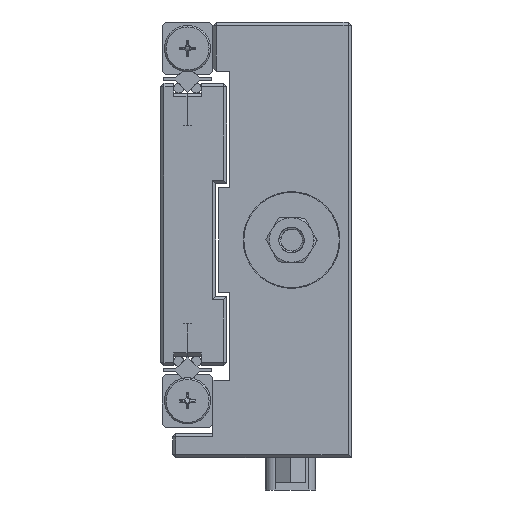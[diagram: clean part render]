
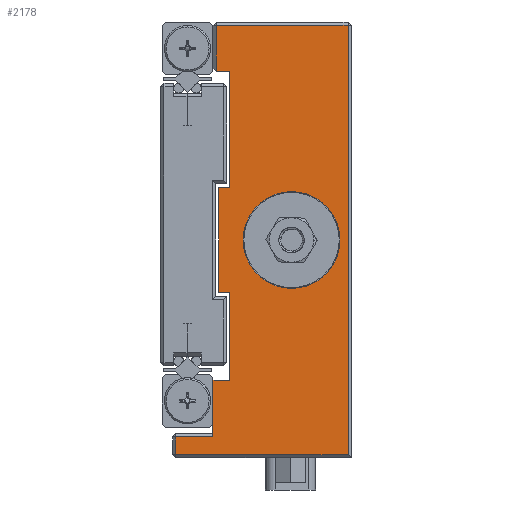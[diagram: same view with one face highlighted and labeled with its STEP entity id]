
A CAD part, left-side view. The second image highlights one B-rep face of the part: STEP entity #2178.
In plain terms, the highlighted planar face has unit normal (-1, 0, 0).
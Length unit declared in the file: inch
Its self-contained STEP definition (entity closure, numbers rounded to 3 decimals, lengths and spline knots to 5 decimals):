
#53 = CARTESIAN_POINT ( 'NONE',  ( -6., 0.4285, 1.177 ) ) ;
#96 = CARTESIAN_POINT ( 'NONE',  ( -6., 0.4285, -1.503 ) ) ;
#139 = DIRECTION ( 'NONE',  ( 0., 0., 1. ) ) ;
#365 = LINE ( 'NONE', #8624, #20761 ) ;
#408 = EDGE_CURVE ( 'NONE', #2262, #2366, #4712, .T. ) ;
#668 = CIRCLE ( 'NONE', #2342, 0.3 ) ;
#677 = VERTEX_POINT ( 'NONE', #28943 ) ;
#1203 = CARTESIAN_POINT ( 'NONE',  ( -6., 0.3935, -0.153 ) ) ;
#1329 = CARTESIAN_POINT ( 'NONE',  ( -6., 0.4085, 0.892 ) ) ;
#1719 = FACE_OUTER_BOUND ( 'NONE', #19675, .T. ) ;
#2178 = ADVANCED_FACE ( 'NONE', ( #18410, #1719 ), #4870, .F. ) ;
#2262 = VERTEX_POINT ( 'NONE', #5379 ) ;
#2342 = AXIS2_PLACEMENT_3D ( 'NONE', #8215, #29873, #139 ) ;
#2366 = VERTEX_POINT ( 'NONE', #21384 ) ;
#2519 = VECTOR ( 'NONE', #16852, 39.37008 ) ;
#2694 = VECTOR ( 'NONE', #33491, 39.37008 ) ;
#2854 = DIRECTION ( 'NONE',  ( 0., 1., 0. ) ) ;
#3197 = VERTEX_POINT ( 'NONE', #28310 ) ;
#3201 = VECTOR ( 'NONE', #32959, 39.37008 ) ;
#3254 = DIRECTION ( 'NONE',  ( 0., 0., 1. ) ) ;
#3424 = VECTOR ( 'NONE', #11922, 39.37008 ) ;
#4059 = ORIENTED_EDGE ( 'NONE', *, *, #29629, .F. ) ;
#4463 = ORIENTED_EDGE ( 'NONE', *, *, #20395, .F. ) ;
#4577 = VERTEX_POINT ( 'NONE', #6880 ) ;
#4712 = LINE ( 'NONE', #31457, #28697 ) ;
#4859 = CARTESIAN_POINT ( 'NONE',  ( -6., 0.4085, 1.177 ) ) ;
#4870 = PLANE ( 'NONE',  #20353 ) ;
#5379 = CARTESIAN_POINT ( 'NONE',  ( -6., -0.4085, -1.483 ) ) ;
#5420 = EDGE_CURVE ( 'NONE', #9772, #20510, #31042, .T. ) ;
#5650 = ORIENTED_EDGE ( 'NONE', *, *, #5420, .T. ) ;
#6091 = VERTEX_POINT ( 'NONE', #23925 ) ;
#6434 = VECTOR ( 'NONE', #23794, 39.37008 ) ;
#6694 = CARTESIAN_POINT ( 'NONE',  ( -6., 0.4285, -1.373 ) ) ;
#6812 = CARTESIAN_POINT ( 'NONE',  ( -6., -0.0585, 0.147 ) ) ;
#6880 = CARTESIAN_POINT ( 'NONE',  ( -6., 0.6585, -1.373 ) ) ;
#6908 = LINE ( 'NONE', #17114, #3201 ) ;
#7115 = CARTESIAN_POINT ( 'NONE',  ( -6., 0.3235, 0.892 ) ) ;
#8215 = CARTESIAN_POINT ( 'NONE',  ( -6., -0.0585, -0.153 ) ) ;
#8389 = CARTESIAN_POINT ( 'NONE',  ( -6., 0.3235, -0.153 ) ) ;
#8624 = CARTESIAN_POINT ( 'NONE',  ( -6., -0.4285, -1.483 ) ) ;
#9726 = CARTESIAN_POINT ( 'NONE',  ( -6., 0.4085, 0.892 ) ) ;
#9772 = VERTEX_POINT ( 'NONE', #4859 ) ;
#10132 = DIRECTION ( 'NONE',  ( 1., 0., 0. ) ) ;
#10170 = VECTOR ( 'NONE', #21744, 39.37008 ) ;
#10431 = LINE ( 'NONE', #53, #26744 ) ;
#10728 = ORIENTED_EDGE ( 'NONE', *, *, #30431, .T. ) ;
#11409 = VECTOR ( 'NONE', #30455, 39.37008 ) ;
#11534 = CARTESIAN_POINT ( 'NONE',  ( -6., 0.3235, 0.172 ) ) ;
#11722 = EDGE_CURVE ( 'NONE', #4577, #12154, #6908, .T. ) ;
#11922 = DIRECTION ( 'NONE',  ( 0., 0., 1. ) ) ;
#12113 = ORIENTED_EDGE ( 'NONE', *, *, #19628, .F. ) ;
#12154 = VERTEX_POINT ( 'NONE', #16893 ) ;
#12780 = CARTESIAN_POINT ( 'NONE',  ( -6., 0.4285, -1.503 ) ) ;
#13648 = LINE ( 'NONE', #24400, #10170 ) ;
#13795 = ORIENTED_EDGE ( 'NONE', *, *, #18905, .F. ) ;
#13826 = ORIENTED_EDGE ( 'NONE', *, *, #24035, .F. ) ;
#14654 = LINE ( 'NONE', #25400, #2694 ) ;
#14971 = CARTESIAN_POINT ( 'NONE',  ( -6., -0.0585, -0.453 ) ) ;
#15629 = DIRECTION ( 'NONE',  ( -1., 0., 0. ) ) ;
#16852 = DIRECTION ( 'NONE',  ( 0., 0., 1. ) ) ;
#16893 = CARTESIAN_POINT ( 'NONE',  ( -6., 0.6585, -1.483 ) ) ;
#17114 = CARTESIAN_POINT ( 'NONE',  ( -6., 0.6585, -1.503 ) ) ;
#17879 = ORIENTED_EDGE ( 'NONE', *, *, #19283, .T. ) ;
#17905 = DIRECTION ( 'NONE',  ( 0., 0., 1. ) ) ;
#18327 = EDGE_CURVE ( 'NONE', #6091, #21646, #23051, .T. ) ;
#18410 = FACE_BOUND ( 'NONE', #25318, .T. ) ;
#18846 = ORIENTED_EDGE ( 'NONE', *, *, #22416, .T. ) ;
#18905 = EDGE_CURVE ( 'NONE', #30646, #27572, #34247, .T. ) ;
#19283 = EDGE_CURVE ( 'NONE', #2366, #9772, #10431, .T. ) ;
#19345 = ORIENTED_EDGE ( 'NONE', *, *, #30773, .F. ) ;
#19453 = ORIENTED_EDGE ( 'NONE', *, *, #30092, .F. ) ;
#19628 = EDGE_CURVE ( 'NONE', #6091, #22327, #32876, .T. ) ;
#19675 = EDGE_LOOP ( 'NONE', ( #17879, #5650, #13826, #13795, #29084, #23911, #19453, #12113, #23038, #19345, #10728, #21304, #18846, #22773 ) ) ;
#19841 = LINE ( 'NONE', #1203, #3424 ) ;
#20226 = DIRECTION ( 'NONE',  ( 0., 1., 0. ) ) ;
#20353 = AXIS2_PLACEMENT_3D ( 'NONE', #12780, #10132, #29140 ) ;
#20395 = EDGE_CURVE ( 'NONE', #32724, #27126, #34207, .T. ) ;
#20510 = VERTEX_POINT ( 'NONE', #1329 ) ;
#20761 = VECTOR ( 'NONE', #27290, 39.37008 ) ;
#20870 = CARTESIAN_POINT ( 'NONE',  ( -6., 0.3235, -0.153 ) ) ;
#21304 = ORIENTED_EDGE ( 'NONE', *, *, #11722, .T. ) ;
#21384 = CARTESIAN_POINT ( 'NONE',  ( -6., -0.4085, 1.177 ) ) ;
#21551 = DIRECTION ( 'NONE',  ( 0., 0., 1. ) ) ;
#21646 = VERTEX_POINT ( 'NONE', #29877 ) ;
#21744 = DIRECTION ( 'NONE',  ( 0., 1., 0. ) ) ;
#21903 = CARTESIAN_POINT ( 'NONE',  ( -6., -0.0585, -0.153 ) ) ;
#22327 = VERTEX_POINT ( 'NONE', #28561 ) ;
#22416 = EDGE_CURVE ( 'NONE', #12154, #2262, #365, .T. ) ;
#22773 = ORIENTED_EDGE ( 'NONE', *, *, #408, .T. ) ;
#22895 = LINE ( 'NONE', #6694, #11409 ) ;
#23038 = ORIENTED_EDGE ( 'NONE', *, *, #18327, .T. ) ;
#23051 = LINE ( 'NONE', #33613, #24453 ) ;
#23690 = CARTESIAN_POINT ( 'NONE',  ( -6., 0.3235, 0.172 ) ) ;
#23760 = EDGE_CURVE ( 'NONE', #34301, #677, #19841, .T. ) ;
#23794 = DIRECTION ( 'NONE',  ( 0., 0., -1. ) ) ;
#23911 = ORIENTED_EDGE ( 'NONE', *, *, #23760, .F. ) ;
#23925 = CARTESIAN_POINT ( 'NONE',  ( -6., 0.3235, -1.023 ) ) ;
#24035 = EDGE_CURVE ( 'NONE', #27572, #20510, #13648, .T. ) ;
#24155 = EDGE_CURVE ( 'NONE', #30646, #677, #27911, .T. ) ;
#24209 = LINE ( 'NONE', #96, #34454 ) ;
#24400 = CARTESIAN_POINT ( 'NONE',  ( -6., -11.67653, 0.892 ) ) ;
#24453 = VECTOR ( 'NONE', #20226, 39.37008 ) ;
#25229 = AXIS2_PLACEMENT_3D ( 'NONE', #21903, #15629, #3254 ) ;
#25271 = DIRECTION ( 'NONE',  ( 0., 1., 0. ) ) ;
#25318 = EDGE_LOOP ( 'NONE', ( #4059, #4463 ) ) ;
#25400 = CARTESIAN_POINT ( 'NONE',  ( -6., 0.3235, -0.478 ) ) ;
#26744 = VECTOR ( 'NONE', #2854, 39.37008 ) ;
#27126 = VERTEX_POINT ( 'NONE', #6812 ) ;
#27290 = DIRECTION ( 'NONE',  ( 0., -1., 0. ) ) ;
#27572 = VERTEX_POINT ( 'NONE', #7115 ) ;
#27911 = LINE ( 'NONE', #11534, #31562 ) ;
#28310 = CARTESIAN_POINT ( 'NONE',  ( -6., 0.4285, -1.373 ) ) ;
#28561 = CARTESIAN_POINT ( 'NONE',  ( -6., 0.3235, -0.478 ) ) ;
#28697 = VECTOR ( 'NONE', #33761, 39.37008 ) ;
#28943 = CARTESIAN_POINT ( 'NONE',  ( -6., 0.3935, 0.172 ) ) ;
#29084 = ORIENTED_EDGE ( 'NONE', *, *, #24155, .T. ) ;
#29140 = DIRECTION ( 'NONE',  ( 0., 0., -1. ) ) ;
#29262 = CARTESIAN_POINT ( 'NONE',  ( -6., 0.3935, -0.478 ) ) ;
#29629 = EDGE_CURVE ( 'NONE', #27126, #32724, #668, .T. ) ;
#29873 = DIRECTION ( 'NONE',  ( -1., 0., 0. ) ) ;
#29877 = CARTESIAN_POINT ( 'NONE',  ( -6., 0.4285, -1.023 ) ) ;
#30092 = EDGE_CURVE ( 'NONE', #22327, #34301, #14654, .T. ) ;
#30431 = EDGE_CURVE ( 'NONE', #3197, #4577, #22895, .T. ) ;
#30455 = DIRECTION ( 'NONE',  ( 0., 1., 0. ) ) ;
#30646 = VERTEX_POINT ( 'NONE', #23690 ) ;
#30661 = VECTOR ( 'NONE', #17905, 39.37008 ) ;
#30773 = EDGE_CURVE ( 'NONE', #3197, #21646, #24209, .T. ) ;
#31042 = LINE ( 'NONE', #9726, #6434 ) ;
#31457 = CARTESIAN_POINT ( 'NONE',  ( -6., -0.4085, -1.503 ) ) ;
#31562 = VECTOR ( 'NONE', #25271, 39.37008 ) ;
#32724 = VERTEX_POINT ( 'NONE', #14971 ) ;
#32876 = LINE ( 'NONE', #8389, #2519 ) ;
#32959 = DIRECTION ( 'NONE',  ( 0., 0., -1. ) ) ;
#33491 = DIRECTION ( 'NONE',  ( 0., 1., 0. ) ) ;
#33613 = CARTESIAN_POINT ( 'NONE',  ( -6., -11.67657, -1.023 ) ) ;
#33761 = DIRECTION ( 'NONE',  ( 0., 0., 1. ) ) ;
#34207 = CIRCLE ( 'NONE', #25229, 0.3 ) ;
#34247 = LINE ( 'NONE', #20870, #30661 ) ;
#34301 = VERTEX_POINT ( 'NONE', #29262 ) ;
#34454 = VECTOR ( 'NONE', #21551, 39.37008 ) ;
